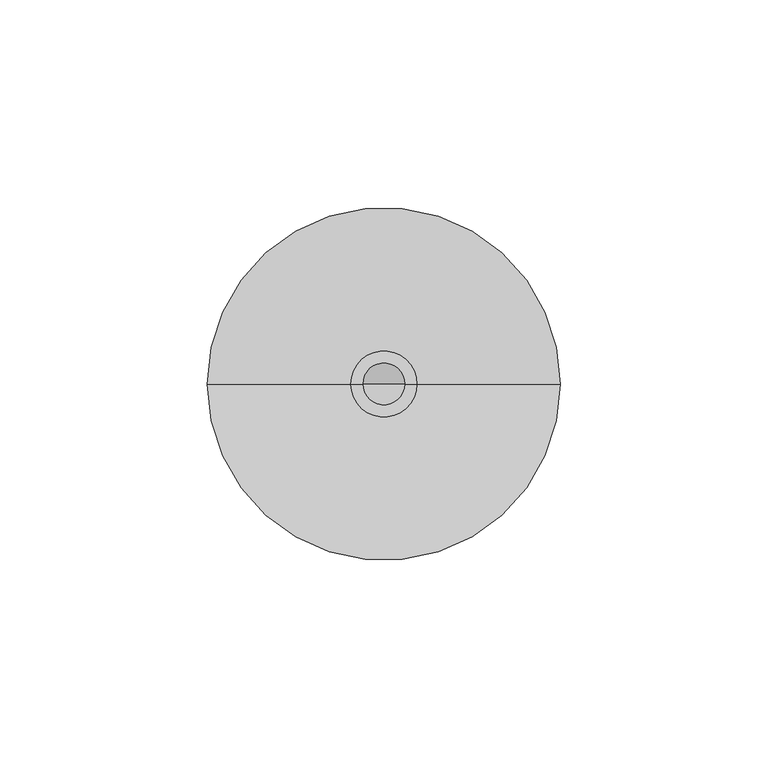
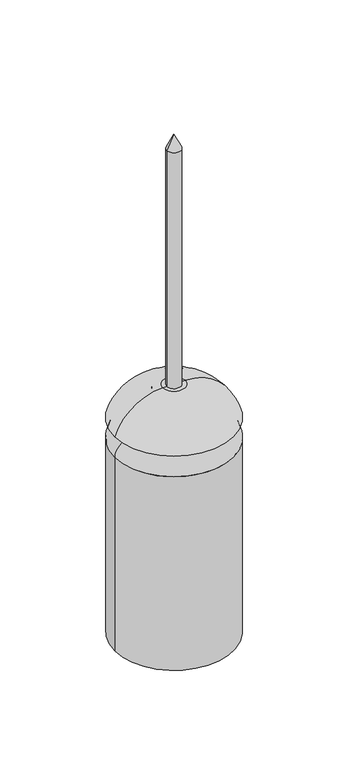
"""IFC4 building model written with IfcOpenShell, lengths in millimetres: proxy geometry, КНС_ESEМолниеприемник_DKC : NI0015_Нержавеющая сталь V4A."""

import ifcopenshell
import ifcopenshell.guid

model = None  # the IFC model being written
_history = None  # IfcOwnerHistory: only IFC2X3 demands one
_inside = {}  # id of a spatial element -> (the spatial element, [elements in it])
_under = {}  # id of a project, library or spatial element -> (it, [spatial elements below it])
_declared = {}  # id of a project -> (the project, [libraries it declares])
_typed = {}  # id of a type object -> (the type object, [elements of that type])
_made_of = {}  # id of a material, layer set ... -> (it, [elements and type objects made of it])


def new_model(schema):
    """Start an empty IFC model of exactly this schema.

    Asked for "IFC4X3", IfcOpenShell would pick the latest addendum, in which some entities
    have other attributes; the version numbers below select the first issue.
    IFC2X3 requires an IfcOwnerHistory on every rooted entity: one is made here for all.
    """
    global model, _history
    if schema == "IFC4X3":
        model = ifcopenshell.file(schema_version=(4, 3, 0, 0))
    else:
        model = ifcopenshell.file(schema=schema)
    _inside.clear()
    _under.clear()
    _declared.clear()
    _typed.clear()
    _made_of.clear()
    _history = None
    if model.schema == "IFC2X3":
        org = make("IfcOrganization", Name="unknown")
        user = make(
            "IfcPersonAndOrganization",
            ThePerson=make("IfcPerson", FamilyName="unknown"),
            TheOrganization=org,
        )
        app = make(
            "IfcApplication",
            ApplicationDeveloper=org,
            Version="unknown",
            ApplicationFullName="unknown",
            ApplicationIdentifier="unknown",
        )
        _history = make(
            "IfcOwnerHistory",
            OwningUser=user,
            OwningApplication=app,
            ChangeAction="ADDED",
            CreationDate=0,
        )
    return model


def make(cls, **values):
    """One entity of the class cls with the attributes given. An attribute that is None is left unset."""
    return model.create_entity(
        cls, **{name: value for name, value in values.items() if value is not None}
    )


def rooted(cls, **values):
    """An entity with a GlobalId (a new one), such as an element, a storey or a relation."""
    return make(cls, GlobalId=ifcopenshell.guid.new(), OwnerHistory=_history, **values)


def si_unit(unit_type, name, prefix=None):
    """IfcSIUnit, for example si_unit("LENGTHUNIT", "METRE", prefix="MILLI")."""
    return make("IfcSIUnit", UnitType=unit_type, Prefix=prefix, Name=name)


def assignment(units):
    """IfcUnitAssignment: the units of a project."""
    return None if units is None else make("IfcUnitAssignment", Units=units)


def point(xyz):
    """IfcCartesianPoint."""
    return None if xyz is None else make("IfcCartesianPoint", Coordinates=xyz)


def direction(xyz):
    """IfcDirection."""
    return None if xyz is None else make("IfcDirection", DirectionRatios=xyz)


def frame(location, z_axis=None, x_axis=None):
    """IfcAxis2Placement3D, a coordinate frame: its origin and axes. An axis left out is left unset."""
    return make(
        "IfcAxis2Placement3D",
        Location=point(location),
        Axis=direction(z_axis),
        RefDirection=direction(x_axis),
    )


def origin():
    """The frame at (0, 0, 0) with its axes left unset."""
    return frame((0.0, 0.0, 0.0))


def place(relative_to, where):
    """IfcLocalPlacement: puts the frame where relative to a parent placement (None: the world)."""
    return make(
        "IfcLocalPlacement", PlacementRelTo=relative_to, RelativePlacement=where
    )


def context(
    kind, dimensions, precision=None, world=None, true_north=None, identifier=None
):
    """IfcGeometricRepresentationContext, for example the 3D "Model" context."""
    return make(
        "IfcGeometricRepresentationContext",
        ContextIdentifier=identifier,
        ContextType=kind,
        CoordinateSpaceDimension=dimensions,
        Precision=precision,
        WorldCoordinateSystem=world,
        TrueNorth=true_north,
    )


def project(units=None, contexts=None):
    """IfcProject with its units and contexts."""
    return rooted(
        "IfcProject",
        Name="project",
        RepresentationContexts=contexts,
        UnitsInContext=assignment(units),
    )


def spatial(cls, under=None, at=None, **own):
    """A site, building, storey or space (cls), placed at a placement, below another one or the project."""
    s = rooted(cls, ObjectPlacement=at, **own)
    if under is not None:
        _under.setdefault(under.id(), (under, []))[1].append(s)
    return s


def polyline(points):
    """IfcPolyline through the points."""
    return make("IfcPolyline", Points=[point(p) for p in points])


def circle_curve(where, radius):
    """IfcCircle in the frame where."""
    return make("IfcCircle", Position=where, Radius=radius)


def ellipse_curve(where, semi_axis1, semi_axis2):
    """IfcEllipse in the frame where."""
    return make(
        "IfcEllipse", Position=where, SemiAxis1=semi_axis1, SemiAxis2=semi_axis2
    )


def trimmed(basis, trim1, trim2, sense, master):
    """IfcTrimmedCurve: the piece of a basis curve between two trims."""
    return make(
        "IfcTrimmedCurve",
        BasisCurve=basis,
        Trim1=trim1,
        Trim2=trim2,
        SenseAgreement=sense,
        MasterRepresentation=master,
    )


def shape(context_of_items, identifier, shape_type, items):
    """IfcShapeRepresentation: the items that make up one representation, for example the "Body"."""
    return make(
        "IfcShapeRepresentation",
        ContextOfItems=context_of_items,
        RepresentationIdentifier=identifier,
        RepresentationType=shape_type,
        Items=items,
    )


def source(mapping_origin, context_of_items, identifier, shape_type, items):
    """IfcRepresentationMap: a shape defined once, which mapped items show again and again."""
    return make(
        "IfcRepresentationMap",
        MappingOrigin=mapping_origin,
        MappedRepresentation=shape(context_of_items, identifier, shape_type, items),
    )


def transform(
    local_origin,
    x_axis=None,
    y_axis=None,
    z_axis=None,
    scale=None,
    scale2=None,
    scale3=None,
    uniform=True,
):
    """IfcCartesianTransformationOperator3D, or its non-uniform kind. x_axis, y_axis, z_axis: its Axis1, 2, 3."""
    if uniform:
        return make(
            "IfcCartesianTransformationOperator3D",
            Axis1=direction(x_axis),
            Axis2=direction(y_axis),
            LocalOrigin=point(local_origin),
            Scale=scale,
            Axis3=direction(z_axis),
        )
    return make(
        "IfcCartesianTransformationOperator3DnonUniform",
        Axis1=direction(x_axis),
        Axis2=direction(y_axis),
        LocalOrigin=point(local_origin),
        Scale=scale,
        Axis3=direction(z_axis),
        Scale2=scale2,
        Scale3=scale3,
    )


def mapped(mapping_source, mapping_target):
    """IfcMappedItem: shows the shape of a source again, moved by a transform."""
    return make(
        "IfcMappedItem", MappingSource=mapping_source, MappingTarget=mapping_target
    )


def made_of(thing, what):
    """Note that an element or type object is made of a material, layer set ...; save() writes the relation."""
    if what is not None:
        _made_of.setdefault(what.id(), (what, []))[1].append(thing)
    return thing


def element(
    cls,
    number,
    at=None,
    inside=None,
    cuts=None,
    type_object=None,
    material=None,
    context=None,
    identifier="Body",
    shape_type=None,
    held_by="IfcProductDefinitionShape",
    body=None,
    shapes=None,
    **own,
):
    """One element of the class cls, such as IfcWall. Its Tag is "e" and its number.

    at: its placement. inside: the storey or other place that contains it. cuts: it is an
    opening in that element (IfcRelVoidsElement). A single representation is given by context,
    identifier, shape_type and body (its items); several are given by shapes. held_by: the class
    of the entity that holds the representations. save() writes the other relations.
    """
    e = rooted(cls, Tag="e%d" % number, ObjectPlacement=at, **own)
    if body is not None:
        shapes = [shape(context, identifier, shape_type, body)]
    if shapes is not None:
        e.Representation = make(held_by, Representations=shapes)
    if inside is not None:
        _inside.setdefault(inside.id(), (inside, []))[1].append(e)
    if cuts is not None:
        rooted(
            "IfcRelVoidsElement", RelatingBuildingElement=cuts, RelatedOpeningElement=e
        )
    if type_object is not None:
        _typed.setdefault(type_object.id(), (type_object, []))[1].append(e)
    return made_of(e, material)


def aggregate(whole, parts):
    """IfcRelAggregates: a whole, such as a stair, and the parts it consists of."""
    return rooted("IfcRelAggregates", RelatingObject=whole, RelatedObjects=parts)


def save(model, path):
    """Write the relations noted so far, then the file.

    IfcRelAggregates (storeys below a building ...), IfcRelContainedInSpatialStructure (elements
    in a storey), IfcRelDefinesByType, IfcRelAssociatesMaterial and IfcRelDeclares: one each for
    every whole, place, type object, material and project.
    """
    for whole, parts in _under.values():
        aggregate(whole, parts)
    for where, things in _inside.values():
        rooted(
            "IfcRelContainedInSpatialStructure",
            RelatedElements=things,
            RelatingStructure=where,
        )
    for kind, things in _typed.values():
        rooted("IfcRelDefinesByType", RelatedObjects=things, RelatingType=kind)
    for what, things in _made_of.values():
        rooted("IfcRelAssociatesMaterial", RelatedObjects=things, RelatingMaterial=what)
    for by, libraries in _declared.values():
        rooted("IfcRelDeclares", RelatingContext=by, RelatedDefinitions=libraries)
    model.write(path)


def plane_surface(at):
    """IfcPlane: the flat surface through the origin of the frame at, square to its z axis."""
    return make("IfcPlane", Position=at)


def cylinder_surface(at, radius):
    """IfcCylindricalSurface: all points at the distance radius from the z axis of the frame at."""
    return make("IfcCylindricalSurface", Position=at, Radius=radius)


def revolved_surface(curve, axis_point, axis_direction):
    """IfcSurfaceOfRevolution: the curve turned about the line through axis_point along axis_direction."""
    return make(
        "IfcSurfaceOfRevolution",
        SweptCurve=make("IfcArbitraryOpenProfileDef", ProfileType="CURVE", Curve=curve),
        AxisPosition=make("IfcAxis1Placement", Location=point(axis_point), Axis=direction(axis_direction)),
    )


def advanced_brep(points, edges, surfaces, faces):
    """IfcAdvancedBrep: a solid bounded by faces that lie on surfaces and meet in shared edges.

    An edge is (start, end): straight between two places in points (the first is 0);
    or (start, end, curve); or (start, end, curve, False) where it runs against its curve.
    A face is (place in surfaces, loops), or (place, loops, False) where it looks against
    its surface's normal. A loop lists edges by number (the first is 1), with a minus sign
    where the edge is run from its end to its start. The first loop is the outer one.
    """
    corners = [point(p) for p in points]
    vertices = [make("IfcVertexPoint", VertexGeometry=c) for c in corners]
    made = []
    for start, end, *more in edges:
        made.append(
            make(
                "IfcEdgeCurve",
                EdgeStart=vertices[start],
                EdgeEnd=vertices[end],
                EdgeGeometry=more[0] if more else make("IfcPolyline", Points=[corners[start], corners[end]]),
                SameSense=more[1] if len(more) > 1 else True,
            )
        )
    hull = []
    for where, loops, *sense in faces:
        bounds = []
        for j, loop in enumerate(loops):
            ring = [make("IfcOrientedEdge", EdgeElement=made[abs(k) - 1], Orientation=k > 0) for k in loop]
            bounds.append(
                make(
                    "IfcFaceOuterBound" if j == 0 else "IfcFaceBound",
                    Bound=make("IfcEdgeLoop", EdgeList=ring),
                    Orientation=True,
                )
            )
        hull.append(make("IfcAdvancedFace", Bounds=bounds, FaceSurface=surfaces[where], SameSense=sense[0] if sense else True))
    return make("IfcAdvancedBrep", Outer=make("IfcClosedShell", CfsFaces=hull))


def security_devices_b758fb0a(model_context):
    return source(origin(), model_context, "Body", "AdvancedBrep", [
        advanced_brep(
        [(5.0, 0.0, 368.2774654), (-5.0, 0.0, 368.2774654), (0.0, 0.0, 379.0), (5.0, 0.0, 189.5), (-5.0, 0.0, 189.5), (0.0, 0.0, 189.5)],
        [
            (0, 1, circle_curve(frame((0.0, 0.0, 368.2774654), z_axis=(0.0, 0.0, 1.0), x_axis=(-1.0, 0.0, 0.0)), 5.0)),
            (1, 2),
            (2, 0),
            (1, 0, circle_curve(frame((0.0, 0.0, 368.2774654), z_axis=(0.0, 0.0, 1.0), x_axis=(-1.0, 0.0, 0.0)), 5.0)),
            (3, 4, circle_curve(frame((0.0, 0.0, 189.5), z_axis=(0.0, 0.0, 1.0), x_axis=(-1.0, 0.0, 0.0)), 5.0)),
            (4, 1),
            (0, 3),
            (4, 3, circle_curve(frame((0.0, 0.0, 189.5), z_axis=(0.0, 0.0, 1.0), x_axis=(-1.0, 0.0, 0.0)), 5.0)),
            (5, 4),
            (3, 5),
        ],
        [
            revolved_surface(polyline([(0.0, 0.0, 379.0), (-5.0, 0.0, 368.2774654)]), (0.0, 0.0, 2214.3150031), (0.0, 0.0, -1.0)),
            cylinder_surface(frame((0.0, 0.0, 2214.3150031), z_axis=(0.0, 0.0, -1.0), x_axis=(-1.0, 0.0, 0.0)), 5.0),
            plane_surface(frame((0.0, 0.0, 189.5), z_axis=(0.0, 0.0, -1.0), x_axis=(-1.0, 0.0, 0.0))),
        ],
        [
            (0, [[1, 2, 3]]),
            (0, [[4, -3, -2]]),
            (1, [[5, 6, -1, 7]]),
            (1, [[8, -7, -4, -6]]),
            (2, [[9, -5, 10]]),
            (2, [[-10, -8, -9]]),
        ],
    ),
        advanced_brep(
        [(0.0, 0.0, 0.0), (-14.0, 0.0, 0.0), (14.0, 0.0, 0.0), (7.9645399, 0.0, 189.5), (-7.9645399, 0.0, 189.5), (0.0, 0.0, 189.5), (42.5, 0.0, 164.4085195), (-42.5, 0.0, 164.4085195), (41.4469613, 0.0, 164.4085195), (-41.4469613, 0.0, 164.4085195), (14.0, 0.0, 187.9804033), (-14.0, 0.0, 187.9804033), (14.0, 0.0, 159.5), (-14.0, 0.0, 159.5), (29.8018389, 0.0, 159.5), (-29.8018389, 0.0, 159.5), (42.5, 0.0, 148.8449777), (-42.5, 0.0, 148.8449777), (42.5, 0.0, 2.0), (-42.5, 0.0, 2.0), (41.5, 0.0, 2.0), (-41.5, 0.0, 2.0), (41.5, 0.0, 27.0), (-41.5, 0.0, 27.0), (14.0, 0.0, 27.0), (-14.0, 0.0, 27.0)],
        [
            (0, 1),
            (1, 2, circle_curve(frame((0.0, 0.0, 0.0), z_axis=(0.0, 0.0, -1.0), x_axis=(-1.0, 0.0, 0.0)), 14.0)),
            (2, 0),
            (2, 1, circle_curve(frame((0.0, 0.0, 0.0), z_axis=(0.0, 0.0, -1.0), x_axis=(-1.0, 0.0, 0.0)), 14.0)),
            (3, 4, circle_curve(frame((0.0, 0.0, 189.5), z_axis=(0.0, 0.0, 1.0), x_axis=(-1.0, 0.0, 0.0)), 7.9645399)),
            (4, 5),
            (5, 3),
            (4, 3, circle_curve(frame((0.0, 0.0, 189.5), z_axis=(0.0, 0.0, 1.0), x_axis=(-1.0, 0.0, 0.0)), 7.9645399)),
            (6, 7, circle_curve(frame((0.0, 0.0, 164.4085195), z_axis=(0.0, 0.0, 1.0), x_axis=(-1.0, 0.0, 0.0)), 42.5)),
            (7, 4, circle_curve(frame((-7.9645399, 0.0, 153.1872683), z_axis=(0.0, 1.0, 0.0), x_axis=(1.0, 0.0, 0.0)), 36.3127317)),
            (3, 6, circle_curve(frame((7.9645399, 0.0, 153.1872683), z_axis=(0.0, 1.0, 0.0), x_axis=(-1.0, 0.0, 0.0)), 36.3127317)),
            (7, 6, circle_curve(frame((0.0, 0.0, 164.4085195), z_axis=(0.0, 0.0, 1.0), x_axis=(-1.0, 0.0, 0.0)), 42.5)),
            (8, 9, circle_curve(frame((0.0, 0.0, 164.4085195), z_axis=(0.0, 0.0, 1.0), x_axis=(-1.0, 0.0, 0.0)), 41.4469613)),
            (9, 7),
            (6, 8),
            (9, 8, circle_curve(frame((0.0, 0.0, 164.4085195), z_axis=(0.0, 0.0, 1.0), x_axis=(-1.0, 0.0, 0.0)), 41.4469613)),
            (10, 11, circle_curve(frame((0.0, 0.0, 187.9804033), z_axis=(0.0, 0.0, 1.0), x_axis=(-1.0, 0.0, 0.0)), 14.0)),
            (11, 9, circle_curve(frame((-7.9645399, 0.0, 153.1872683), z_axis=(0.0, -1.0, 0.0), x_axis=(1.0, 0.0, 0.0)), 35.3127317)),
            (8, 10, circle_curve(frame((7.9645399, 0.0, 153.1872683), z_axis=(0.0, -1.0, 0.0), x_axis=(-1.0, 0.0, 0.0)), 35.3127317)),
            (11, 10, circle_curve(frame((0.0, 0.0, 187.9804033), z_axis=(0.0, 0.0, 1.0), x_axis=(-1.0, 0.0, 0.0)), 14.0)),
            (12, 13, circle_curve(frame((0.0, 0.0, 159.5), z_axis=(0.0, 0.0, 1.0), x_axis=(-1.0, 0.0, 0.0)), 14.0)),
            (13, 11),
            (10, 12),
            (13, 12, circle_curve(frame((0.0, 0.0, 159.5), z_axis=(0.0, 0.0, 1.0), x_axis=(-1.0, 0.0, 0.0)), 14.0)),
            (14, 15, circle_curve(frame((0.0, 0.0, 159.5), z_axis=(0.0, 0.0, 1.0), x_axis=(-1.0, 0.0, 0.0)), 29.8018389)),
            (15, 13),
            (12, 14),
            (15, 14, circle_curve(frame((0.0, 0.0, 159.5), z_axis=(0.0, 0.0, 1.0), x_axis=(-1.0, 0.0, 0.0)), 29.8018389)),
            (16, 17, circle_curve(frame((0.0, 0.0, 148.8449777), z_axis=(0.0, 0.0, 1.0), x_axis=(-1.0, 0.0, 0.0)), 42.5)),
            (17, 15, circle_curve(frame((-31.6806068, 0.0, 148.8449777), z_axis=(0.0, 1.0, 0.0), x_axis=(1.0, 0.0, 0.0)), 10.8193932)),
            (14, 16, circle_curve(frame((31.6806068, 0.0, 148.8449777), z_axis=(0.0, 1.0, 0.0), x_axis=(-1.0, 0.0, 0.0)), 10.8193932)),
            (17, 16, circle_curve(frame((0.0, 0.0, 148.8449777), z_axis=(0.0, 0.0, 1.0), x_axis=(-1.0, 0.0, 0.0)), 42.5)),
            (18, 19, circle_curve(frame((0.0, 0.0, 2.0), z_axis=(0.0, 0.0, 1.0), x_axis=(-1.0, 0.0, 0.0)), 42.5)),
            (19, 17),
            (16, 18),
            (19, 18, circle_curve(frame((0.0, 0.0, 2.0), z_axis=(0.0, 0.0, 1.0), x_axis=(-1.0, 0.0, 0.0)), 42.5)),
            (20, 21, circle_curve(frame((0.0, 0.0, 2.0), z_axis=(0.0, 0.0, 1.0), x_axis=(-1.0, 0.0, 0.0)), 41.5)),
            (21, 19),
            (18, 20),
            (21, 20, circle_curve(frame((0.0, 0.0, 2.0), z_axis=(0.0, 0.0, 1.0), x_axis=(-1.0, 0.0, 0.0)), 41.5)),
            (22, 23, circle_curve(frame((0.0, 0.0, 27.0), z_axis=(0.0, 0.0, 1.0), x_axis=(-1.0, 0.0, 0.0)), 41.5)),
            (23, 21),
            (20, 22),
            (23, 22, circle_curve(frame((0.0, 0.0, 27.0), z_axis=(0.0, 0.0, 1.0), x_axis=(-1.0, 0.0, 0.0)), 41.5)),
            (24, 25, circle_curve(frame((0.0, 0.0, 27.0), z_axis=(0.0, 0.0, 1.0), x_axis=(-1.0, 0.0, 0.0)), 14.0)),
            (25, 23),
            (22, 24),
            (25, 24, circle_curve(frame((0.0, 0.0, 27.0), z_axis=(0.0, 0.0, 1.0), x_axis=(-1.0, 0.0, 0.0)), 14.0)),
            (1, 25),
            (24, 2),
        ],
        [
            plane_surface(frame((0.0, 0.0, 0.0), z_axis=(0.0, 0.0, -1.0), x_axis=(-1.0, 0.0, 0.0))),
            plane_surface(frame((0.0, 0.0, 189.5), z_axis=(0.0, 0.0, 1.0), x_axis=(-1.0, 0.0, 0.0))),
            revolved_surface(trimmed(ellipse_curve(frame((-7.9645399, 0.0, 153.1872683), z_axis=(0.0, -1.0, 0.0), x_axis=(1.0, 0.0, 0.0)), 36.3127317, 36.3127317), [point((-7.9645399, 0.0, 189.5))], [point((-42.5, 0.0, 164.4085195))], True, "CARTESIAN"), (0.0, 0.0, 122.0), (0.0, 0.0, -1.0)),
            plane_surface(frame((0.0, 0.0, 164.4085195), z_axis=(0.0, 0.0, -1.0), x_axis=(-1.0, 0.0, 0.0))),
            revolved_surface(trimmed(ellipse_curve(frame((-7.9645399, 0.0, 153.1872683), z_axis=(0.0, 1.0, 0.0), x_axis=(1.0, 0.0, 0.0)), 35.3127317, 35.3127317), [point((-41.4469613, 0.0, 164.4085195))], [point((-14.0, 0.0, 187.9804033))], True, "CARTESIAN"), (0.0, 0.0, 122.0), (0.0, 0.0, -1.0)),
            cylinder_surface(frame((0.0, 0.0, 122.0), z_axis=(0.0, 0.0, -1.0), x_axis=(-1.0, 0.0, 0.0)), 14.0),
            plane_surface(frame((0.0, 0.0, 159.5), z_axis=(0.0, 0.0, 1.0), x_axis=(-1.0, 0.0, 0.0))),
            revolved_surface(trimmed(ellipse_curve(frame((-31.6806068, 0.0, 148.8449777), z_axis=(0.0, -1.0, 0.0), x_axis=(1.0, 0.0, 0.0)), 10.8193932, 10.8193932), [point((-29.8018389, 0.0, 159.5))], [point((-42.5, 0.0, 148.8449777))], True, "CARTESIAN"), (0.0, 0.0, 122.0), (0.0, 0.0, -1.0)),
            cylinder_surface(frame((0.0, 0.0, 122.0), z_axis=(0.0, 0.0, -1.0), x_axis=(-1.0, 0.0, 0.0)), 42.5),
            plane_surface(frame((0.0, 0.0, 2.0), z_axis=(0.0, 0.0, -1.0), x_axis=(-1.0, 0.0, 0.0))),
            revolved_surface(polyline([(-41.5, 0.0, 2.0), (-41.5, 0.0, 27.0)]), (0.0, 0.0, 122.0), (0.0, 0.0, -1.0)),
            plane_surface(frame((0.0, 0.0, 27.0), z_axis=(0.0, 0.0, -1.0), x_axis=(-1.0, 0.0, 0.0))),
        ],
        [
            (0, [[1, 2, 3]]),
            (0, [[-3, 4, -1]]),
            (1, [[5, 6, 7]]),
            (1, [[8, -7, -6]]),
            (2, [[9, 10, -5, 11]]),
            (2, [[12, -11, -8, -10]]),
            (3, [[13, 14, -9, 15]]),
            (3, [[16, -15, -12, -14]]),
            (4, [[17, 18, -13, 19]]),
            (4, [[20, -19, -16, -18]]),
            (5, [[21, 22, -17, 23]]),
            (5, [[24, -23, -20, -22]]),
            (6, [[25, 26, -21, 27]]),
            (6, [[28, -27, -24, -26]]),
            (7, [[29, 30, -25, 31]]),
            (7, [[32, -31, -28, -30]]),
            (8, [[33, 34, -29, 35]]),
            (8, [[36, -35, -32, -34]]),
            (9, [[37, 38, -33, 39]]),
            (9, [[40, -39, -36, -38]]),
            (10, [[41, 42, -37, 43]]),
            (10, [[44, -43, -40, -42]]),
            (11, [[45, 46, -41, 47]]),
            (11, [[48, -47, -44, -46]]),
            (5, [[-2, 49, -45, 50]]),
            (5, [[-4, -50, -48, -49]]),
        ],
    ),
    ])


if __name__ == "__main__":
    model = new_model("IFC4")
    model_context = context("Model", 3, world=origin())
    ifc_project = project(units=[si_unit("LENGTHUNIT", "METRE", prefix="MILLI")], contexts=[model_context])
    site = spatial("IfcSite", under=ifc_project)
    building = spatial("IfcBuilding", under=site)
    placement = place(None, origin())
    security_devices_shape = security_devices_b758fb0a(model_context)
    element("IfcBuildingElementProxy", 1, Name="КНС_ESEМолниеприемник_DKC : NI0015_Нержавеющая сталь V4A", ObjectType="КНС_ESEМолниеприемник_DKC : NI0015_Нержавеющая сталь V4A", at=placement, inside=building, context=model_context, shape_type="MappedRepresentation", body=[
        mapped(security_devices_shape, transform((0.0, 0.0, 0.0), x_axis=(1.0, 0.0, 0.0), y_axis=(0.0, 1.0, 0.0), z_axis=(0.0, 0.0, 1.0))),
    ])
    save(model, "model.ifc")
